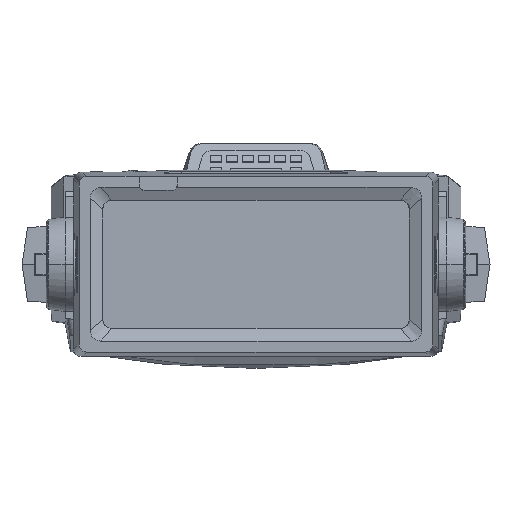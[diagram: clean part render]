
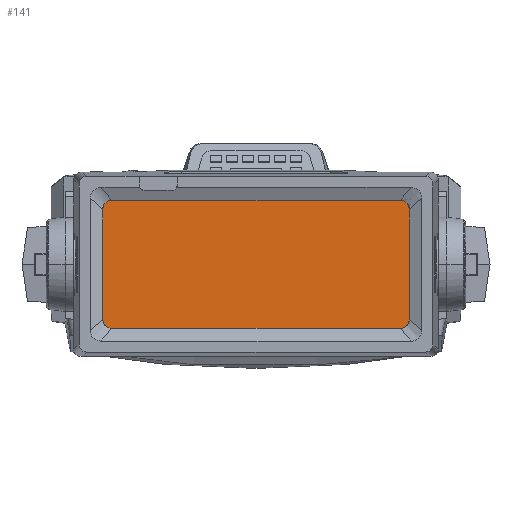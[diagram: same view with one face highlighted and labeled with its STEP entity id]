
A CAD part, top view. The second image highlights one B-rep face of the part: STEP entity #141.
In plain terms, the highlighted planar face has unit normal (0, 0, 1).
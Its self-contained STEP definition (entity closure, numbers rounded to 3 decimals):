
#141=ADVANCED_FACE('',(#909),#12011,.T.);
#909=FACE_OUTER_BOUND('',#1681,.T.);
#1681=EDGE_LOOP('',(#2826,#2827,#2828,#2829,#2830,#2831,#2832,#2833));
#2826=ORIENTED_EDGE('',*,*,#6572,.T.);
#2827=ORIENTED_EDGE('',*,*,#6569,.T.);
#2828=ORIENTED_EDGE('',*,*,#6584,.T.);
#2829=ORIENTED_EDGE('',*,*,#6582,.T.);
#2830=ORIENTED_EDGE('',*,*,#6580,.T.);
#2831=ORIENTED_EDGE('',*,*,#6578,.T.);
#2832=ORIENTED_EDGE('',*,*,#6577,.T.);
#2833=ORIENTED_EDGE('',*,*,#6574,.T.);
#6569=EDGE_CURVE('',#10475,#10476,#9692,.T.);
#6572=EDGE_CURVE('',#10478,#10475,#8503,.T.);
#6574=EDGE_CURVE('',#10480,#10478,#9693,.T.);
#6577=EDGE_CURVE('',#10482,#10480,#8507,.T.);
#6578=EDGE_CURVE('',#10484,#10482,#9694,.T.);
#6580=EDGE_CURVE('',#10486,#10484,#8509,.T.);
#6582=EDGE_CURVE('',#10488,#10486,#9695,.T.);
#6584=EDGE_CURVE('',#10476,#10488,#8512,.T.);
#8503=B_SPLINE_CURVE_WITH_KNOTS('',1,(#17374,#17375),.UNSPECIFIED.,.F.,
 .F.,(2,2),(0.,227.),.UNSPECIFIED.);
#8507=B_SPLINE_CURVE_WITH_KNOTS('',1,(#17385,#17386),.UNSPECIFIED.,.F.,
 .F.,(2,2),(0.,87.),.UNSPECIFIED.);
#8509=B_SPLINE_CURVE_WITH_KNOTS('',1,(#17392,#17393),.UNSPECIFIED.,.F.,
 .F.,(2,2),(0.,227.),.UNSPECIFIED.);
#8512=B_SPLINE_CURVE_WITH_KNOTS('',1,(#17401,#17402),.UNSPECIFIED.,.F.,
 .F.,(2,2),(0.,87.),.UNSPECIFIED.);
#9692=(
BOUNDED_CURVE()
B_SPLINE_CURVE(2,(#17367,#17368,#17369),.UNSPECIFIED.,.F.,.F.)
B_SPLINE_CURVE_WITH_KNOTS((3,3),(0.,10.838),.UNSPECIFIED.)
CURVE()
GEOMETRIC_REPRESENTATION_ITEM()
RATIONAL_B_SPLINE_CURVE((1.,0.707,1.))
REPRESENTATION_ITEM('')
);
#9693=(
BOUNDED_CURVE()
B_SPLINE_CURVE(2,(#17378,#17379,#17380),.UNSPECIFIED.,.F.,.F.)
B_SPLINE_CURVE_WITH_KNOTS((3,3),(0.,10.838),.UNSPECIFIED.)
CURVE()
GEOMETRIC_REPRESENTATION_ITEM()
RATIONAL_B_SPLINE_CURVE((1.,0.707,1.))
REPRESENTATION_ITEM('')
);
#9694=(
BOUNDED_CURVE()
B_SPLINE_CURVE(2,(#17387,#17388,#17389),.UNSPECIFIED.,.F.,.F.)
B_SPLINE_CURVE_WITH_KNOTS((3,3),(0.,10.838),.UNSPECIFIED.)
CURVE()
GEOMETRIC_REPRESENTATION_ITEM()
RATIONAL_B_SPLINE_CURVE((1.,0.707,1.))
REPRESENTATION_ITEM('')
);
#9695=(
BOUNDED_CURVE()
B_SPLINE_CURVE(2,(#17396,#17397,#17398),.UNSPECIFIED.,.F.,.F.)
B_SPLINE_CURVE_WITH_KNOTS((3,3),(0.,10.838),.UNSPECIFIED.)
CURVE()
GEOMETRIC_REPRESENTATION_ITEM()
RATIONAL_B_SPLINE_CURVE((1.,0.707,1.))
REPRESENTATION_ITEM('')
);
#10475=VERTEX_POINT('',#16073);
#10476=VERTEX_POINT('',#16074);
#10478=VERTEX_POINT('',#16076);
#10480=VERTEX_POINT('',#16078);
#10482=VERTEX_POINT('',#16080);
#10484=VERTEX_POINT('',#16082);
#10486=VERTEX_POINT('',#16084);
#10488=VERTEX_POINT('',#16086);
#12011=PLANE('',#12495);
#12495=AXIS2_PLACEMENT_3D('',#15813,#13072,$);
#13072=DIRECTION('',(0.,0.,1.));
#15813=CARTESIAN_POINT('',(-377.192,-39.004,118.188));
#16073=CARTESIAN_POINT('',(-613.5,-40.012,118.188));
#16074=CARTESIAN_POINT('',(-620.4,-46.912,118.188));
#16076=CARTESIAN_POINT('',(-386.5,-40.012,118.188));
#16078=CARTESIAN_POINT('',(-379.6,-46.912,118.188));
#16080=CARTESIAN_POINT('',(-379.6,-133.912,118.188));
#16082=CARTESIAN_POINT('',(-386.5,-140.812,118.188));
#16084=CARTESIAN_POINT('',(-613.5,-140.812,118.188));
#16086=CARTESIAN_POINT('',(-620.4,-133.912,118.188));
#17367=CARTESIAN_POINT('',(-613.5,-40.012,118.188));
#17368=CARTESIAN_POINT('',(-620.4,-40.012,118.188));
#17369=CARTESIAN_POINT('',(-620.4,-46.912,118.188));
#17374=CARTESIAN_POINT('',(-386.5,-40.012,118.188));
#17375=CARTESIAN_POINT('',(-613.5,-40.012,118.188));
#17378=CARTESIAN_POINT('',(-379.6,-46.912,118.188));
#17379=CARTESIAN_POINT('',(-379.6,-40.012,118.188));
#17380=CARTESIAN_POINT('',(-386.5,-40.012,118.188));
#17385=CARTESIAN_POINT('',(-379.6,-133.912,118.188));
#17386=CARTESIAN_POINT('',(-379.6,-46.912,118.188));
#17387=CARTESIAN_POINT('',(-386.5,-140.812,118.188));
#17388=CARTESIAN_POINT('',(-379.6,-140.812,118.188));
#17389=CARTESIAN_POINT('',(-379.6,-133.912,118.188));
#17392=CARTESIAN_POINT('',(-613.5,-140.812,118.188));
#17393=CARTESIAN_POINT('',(-386.5,-140.812,118.188));
#17396=CARTESIAN_POINT('',(-620.4,-133.912,118.188));
#17397=CARTESIAN_POINT('',(-620.4,-140.812,118.188));
#17398=CARTESIAN_POINT('',(-613.5,-140.812,118.188));
#17401=CARTESIAN_POINT('',(-620.4,-46.912,118.188));
#17402=CARTESIAN_POINT('',(-620.4,-133.912,118.188));
